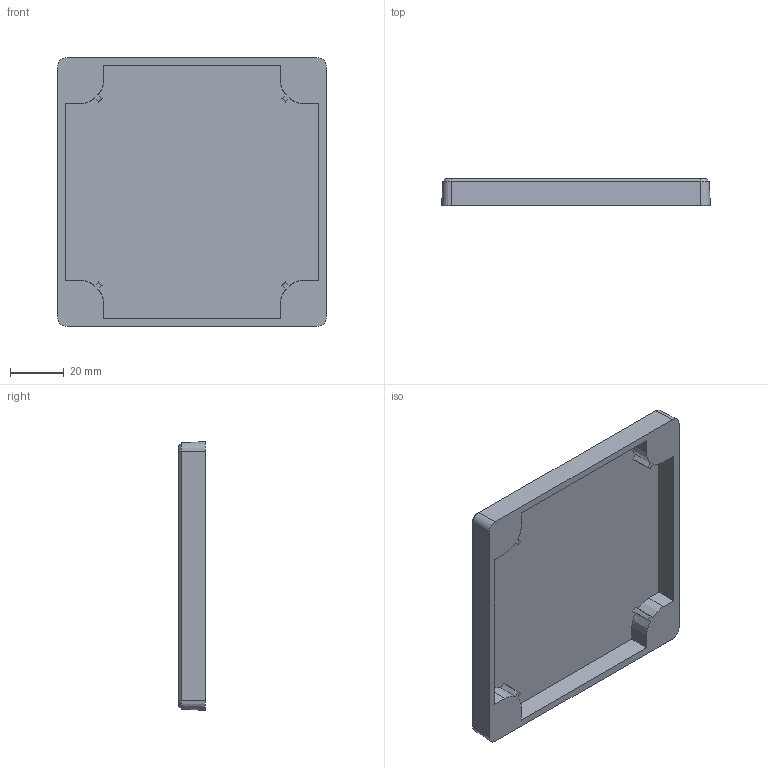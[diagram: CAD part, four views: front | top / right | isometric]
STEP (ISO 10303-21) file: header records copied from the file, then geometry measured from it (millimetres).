
FILE_DESCRIPTION (( 'STEP AP203' ), '1' );
FILE_NAME ('FIBOX_MNX9510C.STEP', '2005-06-30T09:06:49', ( ' ' ), ( ' ' ), 'SwSTEP 2.0', 'SolidWorks 2005143', '' );
FILE_SCHEMA (( 'CONFIG_CONTROL_DESIGN' ));
Length unit declared in the file: millimetre
Products named in the file (1): FIBOX_MNX9510C
Bounding box: 100 x 10 x 100 mm (x, y, z)
Volume: 30803.3 mm3; surface area: 27494.6 mm2
Topology: 1 solids, 1 shells, 72 faces, 184 edges, 120 vertices
Faces by surface type: plane 40, cone 20, cylinder 12
Entity records: 2277 total; most frequent: CARTESIAN_POINT 425, DIRECTION 374, ORIENTED_EDGE 368, EDGE_CURVE 184, AXIS2_PLACEMENT_3D 133, VERTEX_POINT 120, VECTOR 108, LINE 108
